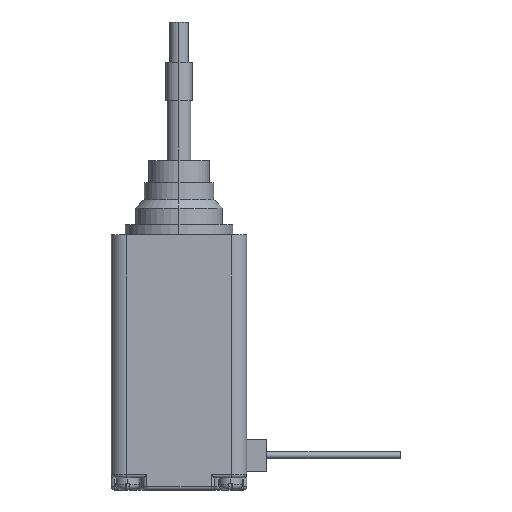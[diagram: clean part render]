
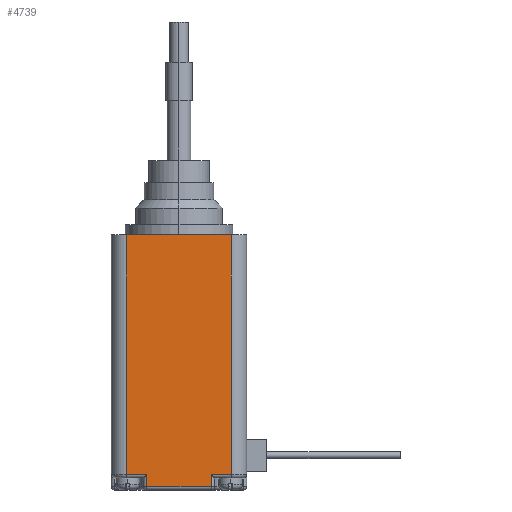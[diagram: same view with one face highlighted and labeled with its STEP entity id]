
A CAD part, left-side view. The second image highlights one B-rep face of the part: STEP entity #4739.
In plain terms, the highlighted planar face has unit normal (-1, 0, 0).
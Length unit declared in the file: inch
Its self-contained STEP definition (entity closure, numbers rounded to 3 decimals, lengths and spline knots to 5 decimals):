
#14 = ORIENTED_EDGE ( 'NONE', *, *, #6106, .T. ) ;
#405 = DIRECTION ( 'NONE',  ( 0., 0., -1. ) ) ;
#729 = CARTESIAN_POINT ( 'NONE',  ( -0.39764, 0.18898, -1.48031 ) ) ;
#735 = DIRECTION ( 'NONE',  ( 0., -1., 0. ) ) ;
#924 = DIRECTION ( 'NONE',  ( 0., 0., 1. ) ) ;
#1001 = ORIENTED_EDGE ( 'NONE', *, *, #5472, .F. ) ;
#1079 = VERTEX_POINT ( 'NONE', #7315 ) ;
#1274 = LINE ( 'NONE', #9002, #3798 ) ;
#1353 = VECTOR ( 'NONE', #2697, 39.37008 ) ;
#1390 = CARTESIAN_POINT ( 'NONE',  ( -0.39764, -0.18898, -1.48031 ) ) ;
#1574 = CARTESIAN_POINT ( 'NONE',  ( -0.39764, -0.18898, -1.48031 ) ) ;
#1654 = CARTESIAN_POINT ( 'NONE',  ( -0.39764, 0.39764, -1.40945 ) ) ;
#1941 = LINE ( 'NONE', #9564, #1353 ) ;
#2042 = CARTESIAN_POINT ( 'NONE',  ( -0.39764, -0.30709, -1.5 ) ) ;
#2097 = VERTEX_POINT ( 'NONE', #5659 ) ;
#2296 = CARTESIAN_POINT ( 'NONE',  ( -0.39764, 0.18898, -1.40945 ) ) ;
#2497 = ORIENTED_EDGE ( 'NONE', *, *, #4856, .T. ) ;
#2634 = LINE ( 'NONE', #8680, #3937 ) ;
#2697 = DIRECTION ( 'NONE',  ( 0., -1., 0. ) ) ;
#2944 = DIRECTION ( 'NONE',  ( 0., -1., 0. ) ) ;
#3294 = VECTOR ( 'NONE', #7020, 39.37008 ) ;
#3437 = EDGE_CURVE ( 'NONE', #5406, #6612, #5352, .T. ) ;
#3453 = AXIS2_PLACEMENT_3D ( 'NONE', #9309, #8540, #924 ) ;
#3798 = VECTOR ( 'NONE', #405, 39.37008 ) ;
#3801 = LINE ( 'NONE', #1574, #8215 ) ;
#3937 = VECTOR ( 'NONE', #5688, 39.37008 ) ;
#4021 = VERTEX_POINT ( 'NONE', #6909 ) ;
#4081 = VERTEX_POINT ( 'NONE', #8786 ) ;
#4206 = VECTOR ( 'NONE', #5495, 39.37008 ) ;
#4600 = CARTESIAN_POINT ( 'NONE',  ( -0.39764, 0.18898, -1.48031 ) ) ;
#4739 = ADVANCED_FACE ( 'NONE', ( #5515 ), #8693, .T. ) ;
#4856 = EDGE_CURVE ( 'NONE', #6612, #7067, #3801, .T. ) ;
#4916 = EDGE_CURVE ( 'NONE', #7067, #5034, #2634, .T. ) ;
#5034 = VERTEX_POINT ( 'NONE', #6478 ) ;
#5183 = EDGE_CURVE ( 'NONE', #5034, #4021, #8511, .T. ) ;
#5199 = LINE ( 'NONE', #6133, #5594 ) ;
#5352 = LINE ( 'NONE', #4600, #4206 ) ;
#5406 = VERTEX_POINT ( 'NONE', #2296 ) ;
#5472 = EDGE_CURVE ( 'NONE', #2097, #1079, #1941, .T. ) ;
#5495 = DIRECTION ( 'NONE',  ( 0., 0., -1. ) ) ;
#5515 = FACE_OUTER_BOUND ( 'NONE', #6311, .T. ) ;
#5576 = EDGE_CURVE ( 'NONE', #2097, #4081, #1274, .T. ) ;
#5594 = VECTOR ( 'NONE', #735, 39.37008 ) ;
#5659 = CARTESIAN_POINT ( 'NONE',  ( -0.39764, 0.30709, 0. ) ) ;
#5688 = DIRECTION ( 'NONE',  ( 0., 0., 1. ) ) ;
#6106 = EDGE_CURVE ( 'NONE', #4021, #1079, #8240, .T. ) ;
#6133 = CARTESIAN_POINT ( 'NONE',  ( -0.39764, 0.20866, -1.40945 ) ) ;
#6311 = EDGE_LOOP ( 'NONE', ( #9121, #7742, #14, #1001, #8646, #6539, #9020, #2497 ) ) ;
#6478 = CARTESIAN_POINT ( 'NONE',  ( -0.39764, -0.18898, -1.40945 ) ) ;
#6539 = ORIENTED_EDGE ( 'NONE', *, *, #8335, .T. ) ;
#6612 = VERTEX_POINT ( 'NONE', #729 ) ;
#6756 = DIRECTION ( 'NONE',  ( 0., 0., 1. ) ) ;
#6909 = CARTESIAN_POINT ( 'NONE',  ( -0.39764, -0.30709, -1.40945 ) ) ;
#7020 = DIRECTION ( 'NONE',  ( 0., -1., 0. ) ) ;
#7067 = VERTEX_POINT ( 'NONE', #1390 ) ;
#7315 = CARTESIAN_POINT ( 'NONE',  ( -0.39764, -0.30709, 0. ) ) ;
#7742 = ORIENTED_EDGE ( 'NONE', *, *, #5183, .T. ) ;
#8215 = VECTOR ( 'NONE', #2944, 39.37008 ) ;
#8240 = LINE ( 'NONE', #2042, #8249 ) ;
#8249 = VECTOR ( 'NONE', #6756, 39.37008 ) ;
#8335 = EDGE_CURVE ( 'NONE', #4081, #5406, #5199, .T. ) ;
#8511 = LINE ( 'NONE', #1654, #3294 ) ;
#8540 = DIRECTION ( 'NONE',  ( -1., 0., 0. ) ) ;
#8646 = ORIENTED_EDGE ( 'NONE', *, *, #5576, .T. ) ;
#8680 = CARTESIAN_POINT ( 'NONE',  ( -0.39764, -0.18898, -1.42913 ) ) ;
#8693 = PLANE ( 'NONE',  #3453 ) ;
#8786 = CARTESIAN_POINT ( 'NONE',  ( -0.39764, 0.30709, -1.40945 ) ) ;
#9002 = CARTESIAN_POINT ( 'NONE',  ( -0.39764, 0.30709, -1.5 ) ) ;
#9020 = ORIENTED_EDGE ( 'NONE', *, *, #3437, .T. ) ;
#9121 = ORIENTED_EDGE ( 'NONE', *, *, #4916, .T. ) ;
#9309 = CARTESIAN_POINT ( 'NONE',  ( -0.39764, 0.39764, -1.5 ) ) ;
#9564 = CARTESIAN_POINT ( 'NONE',  ( -0.39764, 0.39764, 0. ) ) ;
